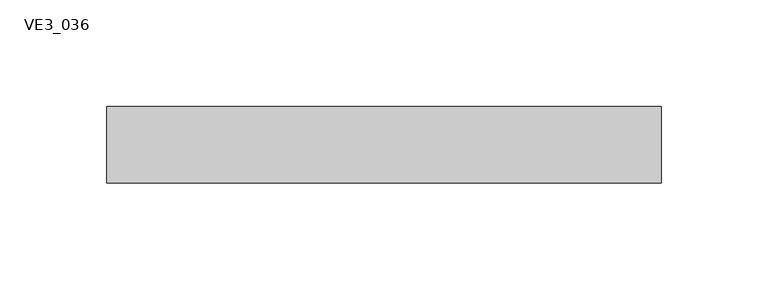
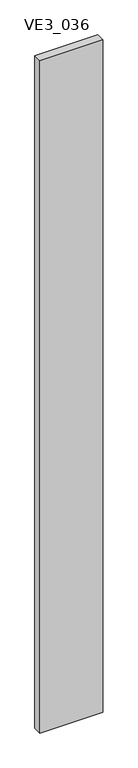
"""IFC4 building model written with IfcOpenShell, lengths in millimetres: plate geometry, TRP_CP_ARC_PF_RE_SE : VE3_036."""

from ifc_helpers import new_model, si_unit, frame, origin, place, context, project, spatial, polyline, outline, extrude, source, transform, mapped, element, save


def ve3_036_f3a40235(model_context):
    return source(origin(), model_context, "Body", "SweptSolid", [
        extrude(outline(polyline([(130.0, 18.0), (130.0, -18.0), (-130.0, -18.0), (-130.0, 18.0), (130.0, 18.0)])), frame((0.0, 0.0, -3.1739529), z_axis=(0.0, 0.0, 1.0), x_axis=(1.0, 0.0, 0.0)), (0.0, 0.0, 1.0), 2933.1739529),
    ])


if __name__ == "__main__":
    model = new_model("IFC4")
    model_context = context("Model", 3, world=origin())
    ifc_project = project(units=[si_unit("LENGTHUNIT", "METRE", prefix="MILLI")], contexts=[model_context])
    site = spatial("IfcSite", under=ifc_project)
    building = spatial("IfcBuilding", under=site)
    placement = place(None, origin())
    ve3_036_shape = ve3_036_f3a40235(model_context)
    element("IfcPlate", 1, ObjectType="TRP_CP_ARC_PF_RE_SE : VE3_036", at=placement, inside=building, context=model_context, shape_type="MappedRepresentation", body=[
        mapped(ve3_036_shape, transform((0.0, 0.0, 0.0), x_axis=(1.0, 0.0, 0.0), y_axis=(0.0, 1.0, 0.0), z_axis=(0.0, 0.0, 1.0))),
    ])
    save(model, "model.ifc")
